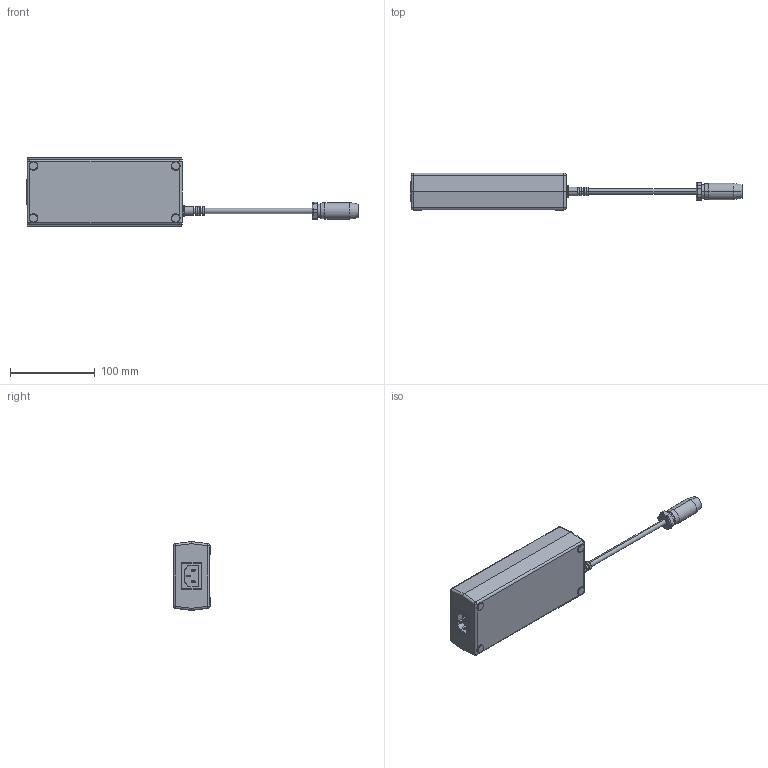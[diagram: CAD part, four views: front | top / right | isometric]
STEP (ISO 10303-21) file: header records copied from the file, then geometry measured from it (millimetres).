
FILE_DESCRIPTION (( 'STEP AP214' ), '1' );
FILE_NAME ('T2 Power Supply.STEP', '2025-06-09T18:04:36', ( '' ), ( '' ), 'SwSTEP 2.0', 'SolidWorks 2025', '' );
FILE_SCHEMA (( 'AUTOMOTIVE_DESIGN' ));
Length unit declared in the file: inch
Products named in the file (3): T2 Power Supply; MDS200T-P240_T2; Eurofast Field Wireable m12-F
Assembly tree (2 placements, depth 2):
  T2 Power Supply
    MDS200T-P240_T2
    Eurofast Field Wireable m12-F
Bounding box: 391.82 x 44.45 x 81.28 mm (x, y, z)
Volume: 639818.5 mm3; surface area: 58808.4 mm2
Topology: 2 solids, 2 shells, 353 faces, 839 edges, 484 vertices
Faces by surface type: cylinder 151, plane 110, torus 50, sphere 28, bspline 10, cone 4
Entity records: 10323 total; most frequent: CARTESIAN_POINT 2069, DIRECTION 1873, ORIENTED_EDGE 1622, EDGE_CURVE 811, AXIS2_PLACEMENT_3D 752, VERTEX_POINT 484, CIRCLE 404, EDGE_LOOP 375
